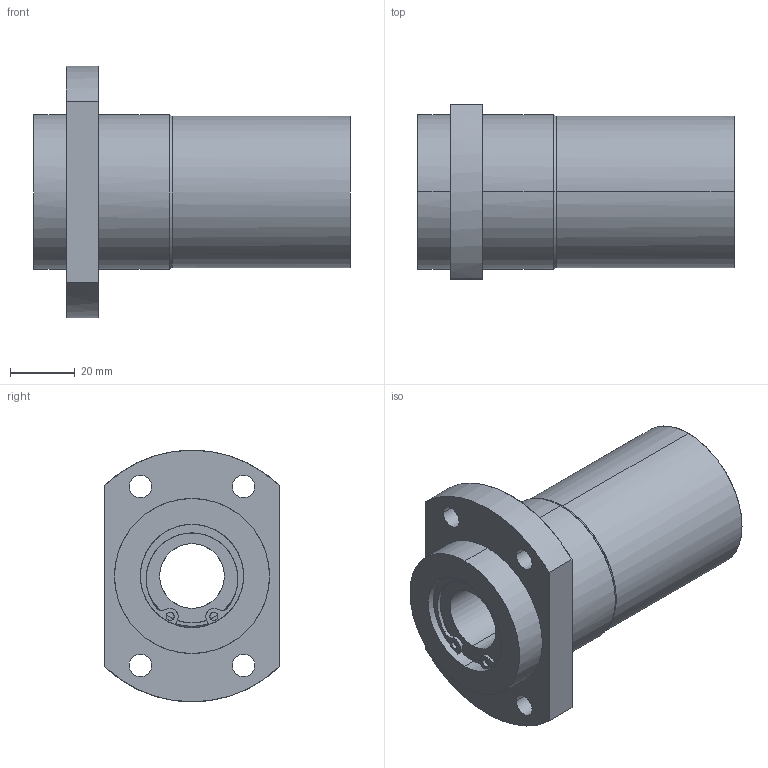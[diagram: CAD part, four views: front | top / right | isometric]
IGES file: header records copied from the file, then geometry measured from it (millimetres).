
Global section: file name: No Iges File Name specified; native system: AutoDesk Inventor R11.0; preprocessor: AutoDesk Inventor Iges Exporter R11.0; author: No Author specified; organization: No Organization specified; date: 20170922.133208; units: millimetre
Bounding box: 98 x 54 x 78 mm (x, y, z)
Surface area: 31079.7 mm2 (no closed solid volume)
Topology: 0 solids, 0 shells, 95 faces, 708 edges, 708 vertices
Faces by surface type: bspline 95
